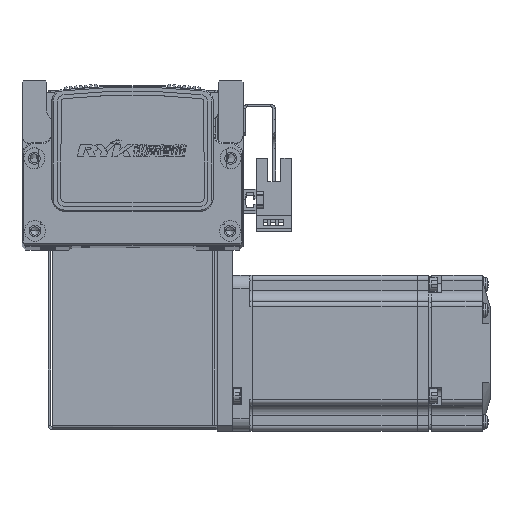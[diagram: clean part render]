
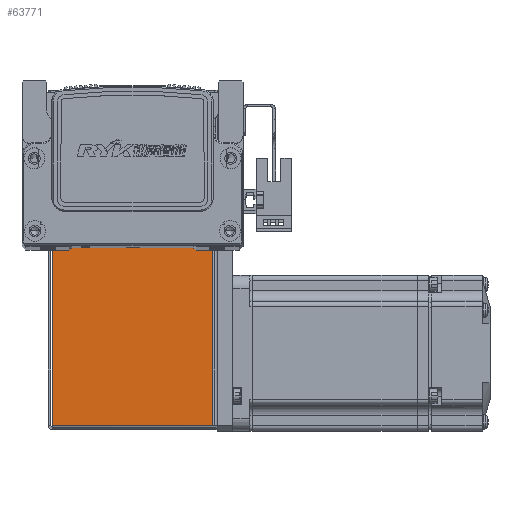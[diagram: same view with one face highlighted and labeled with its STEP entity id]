
A CAD part, top view. The second image highlights one B-rep face of the part: STEP entity #63771.
In plain terms, the highlighted planar face has unit normal (0, 0, 1).
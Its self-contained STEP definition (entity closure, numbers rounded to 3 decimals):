
#1383 = DIRECTION ( 'NONE',  ( 0., 0., -1. ) ) ;
#1400 = DIRECTION ( 'NONE',  ( -1., 0., 0. ) ) ;
#1405 = CARTESIAN_POINT ( 'NONE',  ( 0., 0., 35. ) ) ;
#1409 = PLANE ( 'NONE',  #44795 ) ;
#16321 = EDGE_CURVE ( 'NONE', #23358, #23351, #65324, .T. ) ;
#16340 = EDGE_CURVE ( 'NONE', #23377, #23368, #65452, .T. ) ;
#18194 = DIRECTION ( 'NONE',  ( -1., 0., 0. ) ) ;
#18205 = DIRECTION ( 'NONE',  ( -1., 0., 0. ) ) ;
#18216 = CARTESIAN_POINT ( 'NONE',  ( -32.5, 0.737, 35. ) ) ;
#18233 = CARTESIAN_POINT ( 'NONE',  ( 0., 72.5, 35. ) ) ;
#18370 = CARTESIAN_POINT ( 'NONE',  ( -30.793, 72.5, 35. ) ) ;
#18417 = CARTESIAN_POINT ( 'NONE',  ( -30.793, 0.737, 35. ) ) ;
#18420 = CARTESIAN_POINT ( 'NONE',  ( 30.763, 0.737, 35. ) ) ;
#18485 = CARTESIAN_POINT ( 'NONE',  ( 30.763, 72.5, 35. ) ) ;
#18719 = DIRECTION ( 'NONE',  ( 0., 1., 0. ) ) ;
#18747 = CARTESIAN_POINT ( 'NONE',  ( 30.763, 0.737, 35. ) ) ;
#18791 = CARTESIAN_POINT ( 'NONE',  ( -30.793, 0., 35. ) ) ;
#18838 = DIRECTION ( 'NONE',  ( 0., 1., 0. ) ) ;
#21201 = FACE_OUTER_BOUND ( 'NONE', #71834, .T. ) ;
#23351 = VERTEX_POINT ( 'NONE', #18417 ) ;
#23358 = VERTEX_POINT ( 'NONE', #18420 ) ;
#23368 = VERTEX_POINT ( 'NONE', #18370 ) ;
#23377 = VERTEX_POINT ( 'NONE', #18485 ) ;
#27155 = EDGE_CURVE ( 'NONE', #23358, #23377, #65655, .T. ) ;
#27182 = EDGE_CURVE ( 'NONE', #23351, #23368, #65826, .T. ) ;
#44795 = AXIS2_PLACEMENT_3D ( 'NONE', #1405, #1383, #1400 ) ;
#63771 = ADVANCED_FACE ( 'NONE', ( #21201 ), #1409, .F. ) ;
#65324 = LINE ( 'NONE', #18216, #65359 ) ;
#65359 = VECTOR ( 'NONE', #18205, 1000. ) ;
#65421 = VECTOR ( 'NONE', #18194, 1000. ) ;
#65452 = LINE ( 'NONE', #18233, #65421 ) ;
#65655 = LINE ( 'NONE', #18747, #65673 ) ;
#65673 = VECTOR ( 'NONE', #18719, 1000. ) ;
#65809 = VECTOR ( 'NONE', #18838, 1000. ) ;
#65826 = LINE ( 'NONE', #18791, #65809 ) ;
#71834 = EDGE_LOOP ( 'NONE', ( #75033, #75043, #75072, #75068 ) ) ;
#75033 = ORIENTED_EDGE ( 'NONE', *, *, #27155, .T. ) ;
#75043 = ORIENTED_EDGE ( 'NONE', *, *, #16340, .T. ) ;
#75068 = ORIENTED_EDGE ( 'NONE', *, *, #16321, .F. ) ;
#75072 = ORIENTED_EDGE ( 'NONE', *, *, #27182, .F. ) ;
